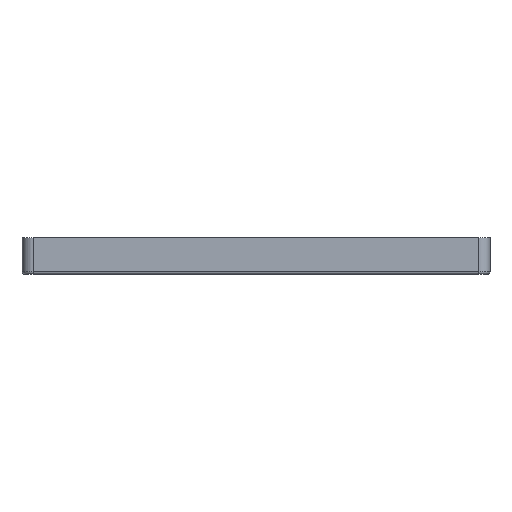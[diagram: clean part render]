
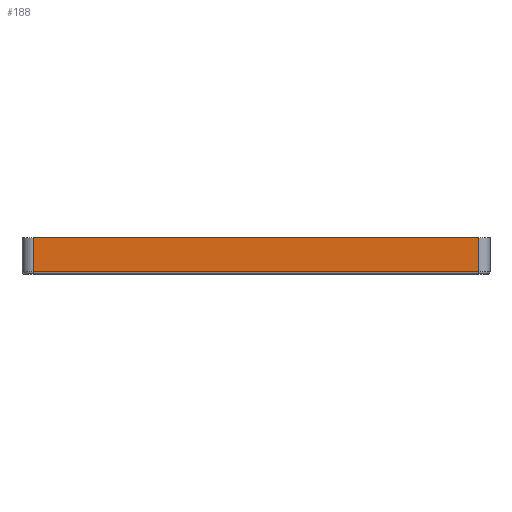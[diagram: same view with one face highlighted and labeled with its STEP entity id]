
A CAD part, left-side view. The second image highlights one B-rep face of the part: STEP entity #188.
In plain terms, the highlighted planar face has unit normal (-1, 0, 0).
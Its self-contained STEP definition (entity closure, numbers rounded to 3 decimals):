
#137=FACE_OUTER_BOUND('',#472,.T.);
#188=ADVANCED_FACE('',(#137),#247,.F.);
#247=PLANE('',#1206);
#281=LINE('',#1736,#357);
#294=LINE('',#1788,#370);
#295=LINE('',#1790,#371);
#296=LINE('',#1792,#372);
#357=VECTOR('',#1379,1.);
#370=VECTOR('',#1424,1.);
#371=VECTOR('',#1425,1.);
#372=VECTOR('',#1426,1.);
#472=EDGE_LOOP('',(#616,#617,#618,#619));
#616=ORIENTED_EDGE('',*,*,#1010,.T.);
#617=ORIENTED_EDGE('',*,*,#1011,.T.);
#618=ORIENTED_EDGE('',*,*,#1012,.T.);
#619=ORIENTED_EDGE('',*,*,#984,.F.);
#884=VERTEX_POINT('',#1735);
#885=VERTEX_POINT('',#1737);
#908=VERTEX_POINT('',#1789);
#909=VERTEX_POINT('',#1791);
#984=EDGE_CURVE('',#884,#885,#281,.T.);
#1010=EDGE_CURVE('',#884,#908,#294,.T.);
#1011=EDGE_CURVE('',#908,#909,#295,.T.);
#1012=EDGE_CURVE('',#909,#885,#296,.T.);
#1206=AXIS2_PLACEMENT_3D('',#1793,#1427,#1428);
#1379=DIRECTION('',(0.,-1.,0.));
#1424=DIRECTION('',(0.,0.,-1.));
#1425=DIRECTION('',(0.,-1.,0.));
#1426=DIRECTION('',(0.,0.,1.));
#1427=DIRECTION('',(1.,0.,0.));
#1428=DIRECTION('',(0.,0.,1.));
#1735=CARTESIAN_POINT('',(98.,183.75,36.));
#1736=CARTESIAN_POINT('',(98.,185.,36.));
#1737=CARTESIAN_POINT('',(98.,86.25,36.));
#1788=CARTESIAN_POINT('',(98.,183.75,28.));
#1789=CARTESIAN_POINT('',(98.,183.75,28.5));
#1790=CARTESIAN_POINT('',(98.,86.25,28.5));
#1791=CARTESIAN_POINT('',(98.,86.25,28.5));
#1792=CARTESIAN_POINT('',(98.,86.25,28.));
#1793=CARTESIAN_POINT('',(98.,185.,28.));
